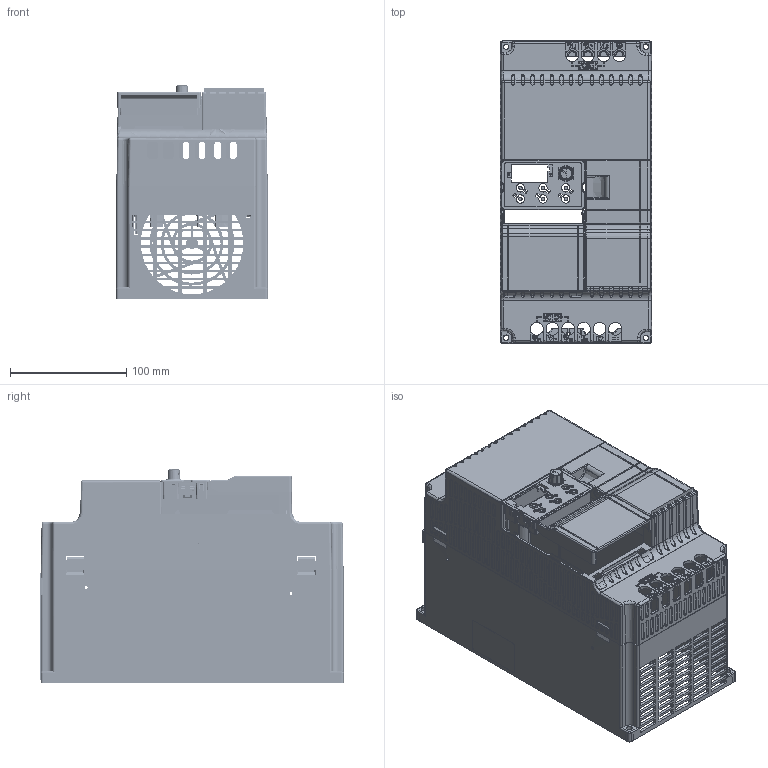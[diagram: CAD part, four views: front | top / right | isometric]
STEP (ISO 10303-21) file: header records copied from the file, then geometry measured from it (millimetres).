
FILE_DESCRIPTION((''),'2;1');
FILE_NAME('Z2000-7_5_11KW_S13__ASM','2019-02-25T',('PC-TR'),(''),'PRO/ENGINEER BY PARAMETRIC TECHNOLOGY CORPORATION, 2010280','PRO/ENGINEER BY PARAMETRIC TECHNOLOGY CORPORATION, 2010280','');
FILE_SCHEMA(('CONFIG_CONTROL_DESIGN'));
Products named in the file (1): Z2000-7_5_11KW_S13__ASM
Bounding box: 130.03 x 260.32 x 183.8 mm (x, y, z)
Volume: 168360.5 mm3; surface area: 402419.8 mm2
Topology: 5 solids, 25 shells, 5003 faces, 14476 edges, 9775 vertices
Faces by surface type: plane 3334, cylinder 1386, cone 103, bspline 73, torus 62, sphere 41, extrusion 4
Entity records: 174778 total; most frequent: CARTESIAN_POINT 45536, ORIENTED_EDGE 28598, DIRECTION 23815, EDGE_CURVE 14440, VECTOR 10141, LINE 10137, VERTEX_POINT 9775, AXIS2_PLACEMENT_3D 6837
